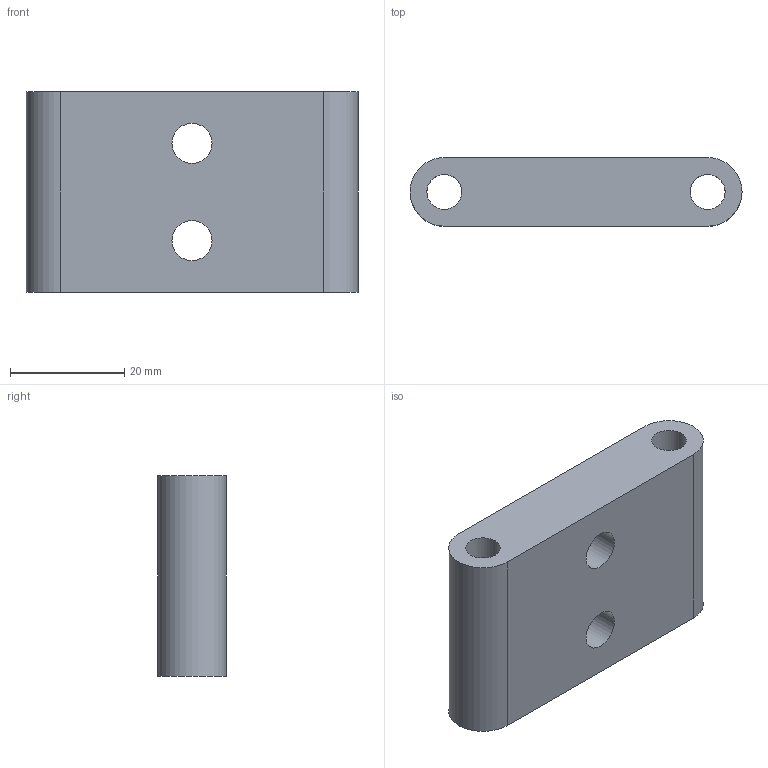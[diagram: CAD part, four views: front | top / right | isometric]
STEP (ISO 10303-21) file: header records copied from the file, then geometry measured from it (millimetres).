
FILE_DESCRIPTION (( 'STEP AP214' ), '1' );
FILE_NAME ('SN01005.step', '2024-12-03T16:31:26', ( '' ), ( '' ), 'SwSTEP 2.0', 'SolidWorks 2023', '' );
FILE_SCHEMA (( 'AUTOMOTIVE_DESIGN' ));
Length unit declared in the file: millimetre
Products named in the file (1): SN01005
Bounding box: 58 x 12 x 35 mm (x, y, z)
Volume: 19630.5 mm3; surface area: 7618.9 mm2
Topology: 1 solids, 1 shells, 14 faces, 30 edges, 20 vertices
Faces by surface type: cylinder 8, plane 6
Full cylindrical faces by diameter (mm): 6.1 x2, 7 x2, 11 x2
Entity records: 399 total; most frequent: DIRECTION 70, CARTESIAN_POINT 59, ORIENTED_EDGE 48, AXIS2_PLACEMENT_3D 31, EDGE_LOOP 30, EDGE_CURVE 24, FACE_OUTER_BOUND 20, VERTEX_POINT 20
